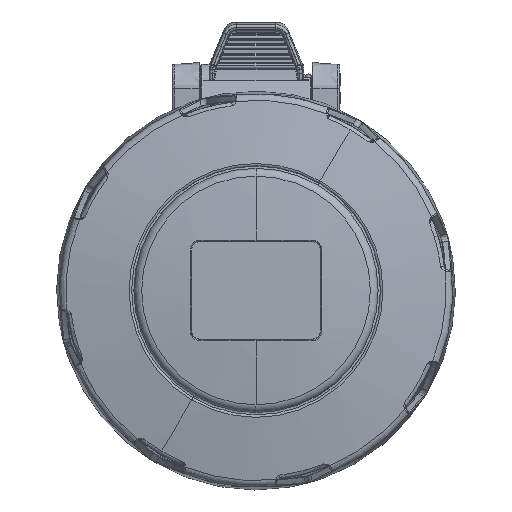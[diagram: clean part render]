
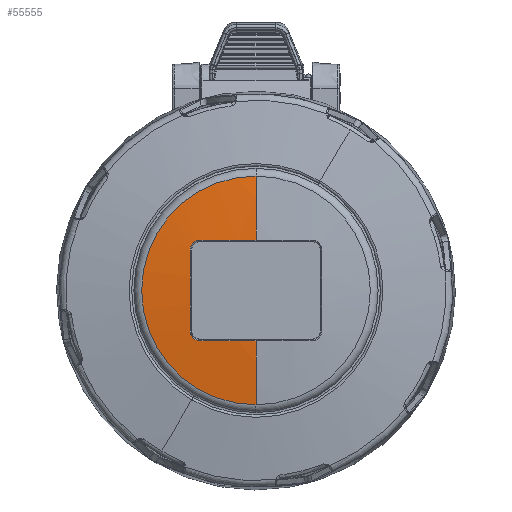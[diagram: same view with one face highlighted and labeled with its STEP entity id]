
A CAD part, top view. The second image highlights one B-rep face of the part: STEP entity #55555.
In plain terms, the highlighted spherical face has radius 199.5 mm.
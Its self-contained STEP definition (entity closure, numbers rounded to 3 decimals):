
#4870=CARTESIAN_POINT('',(0.,-11.211,-184.698));
#4871=DIRECTION('',(0.,-1.,0.));
#4872=DIRECTION('',(0.,0.,1.));
#4873=AXIS2_PLACEMENT_3D('',#4870,#4871,#4872);
#4878=CARTESIAN_POINT('',(0.,0.,13.165));
#4879=DIRECTION('',(0.,0.,1.));
#4880=DIRECTION('',(0.,1.,0.));
#4881=AXIS2_PLACEMENT_3D('',#4878,#4879,#4880);
#4886=CARTESIAN_POINT('',(0.,11.211,-184.698));
#4887=DIRECTION('',(0.,1.,0.));
#4888=DIRECTION('',(-0.063,0.,0.998));
#4889=AXIS2_PLACEMENT_3D('',#4886,#4887,#4888);
#4894=CARTESIAN_POINT('',(-14.715,9.009,14.055));
#4895=CARTESIAN_POINT('',(-14.715,9.175,14.047));
#4896=CARTESIAN_POINT('',(-14.678,9.5,14.035));
#4897=CARTESIAN_POINT('',(-14.514,9.971,14.024));
#4898=CARTESIAN_POINT('',(-14.25,10.392,14.021));
#4899=CARTESIAN_POINT('',(-13.899,10.744,14.027));
#4900=CARTESIAN_POINT('',(-13.478,11.009,14.042));
#4901=CARTESIAN_POINT('',(-13.006,11.174,14.064));
#4902=CARTESIAN_POINT('',(-12.68,11.211,14.083));
#4903=CARTESIAN_POINT('',(-12.513,11.211,14.094));
#4908=CARTESIAN_POINT('',(-14.715,0.,
-184.698));
#4909=DIRECTION('',(-1.,0.,0.));
#4910=DIRECTION('',(0.,-0.045,0.999));
#4911=AXIS2_PLACEMENT_3D('',#4908,#4909,#4910);
#4916=CARTESIAN_POINT('',(-12.513,-11.211,
14.094));
#4917=CARTESIAN_POINT('',(-12.679,-11.211,
14.083));
#4918=CARTESIAN_POINT('',(-13.005,-11.174,
14.064));
#4919=CARTESIAN_POINT('',(-13.476,-11.01,
14.042));
#4920=CARTESIAN_POINT('',(-13.896,-10.746,
14.028));
#4921=CARTESIAN_POINT('',(-14.248,-10.394,
14.021));
#4922=CARTESIAN_POINT('',(-14.513,-9.974,
14.024));
#4923=CARTESIAN_POINT('',(-14.678,-9.503,
14.035));
#4924=CARTESIAN_POINT('',(-14.715,-9.176,
14.047));
#4925=CARTESIAN_POINT('',(-14.715,-9.009,
14.055));
#5145=CARTESIAN_POINT('',(0.,0.,-184.698));
#5146=DIRECTION('',(1.,0.,0.));
#5147=DIRECTION('',(0.,0.128,0.992));
#5148=AXIS2_PLACEMENT_3D('',#5145,#5146,#5147);
#5161=CARTESIAN_POINT('',(0.,0.,-184.698));
#5162=DIRECTION('',(-1.,0.,0.));
#5163=DIRECTION('',(0.,-0.128,0.992));
#5164=AXIS2_PLACEMENT_3D('',#5161,#5162,#5163);
#43658=CARTESIAN_POINT('',(0.,25.509,13.165));
#43659=CARTESIAN_POINT('',(0.,-25.509,13.165));
#43660=VERTEX_POINT('',#43658);
#43661=VERTEX_POINT('',#43659);
#43666=CARTESIAN_POINT('',(0.,11.211,14.487));
#43668=VERTEX_POINT('',#43666);
#43679=CARTESIAN_POINT('',(0.,-11.211,14.487));
#43680=VERTEX_POINT('',#43679);
#43681=CARTESIAN_POINT('',(-12.513,-11.211,
14.094));
#43682=VERTEX_POINT('',#43681);
#43683=VERTEX_POINT('',#4925);
#43686=CARTESIAN_POINT('',(-14.715,9.009,
14.055));
#43687=VERTEX_POINT('',#43686);
#43690=VERTEX_POINT('',#4903);
#55533=CARTESIAN_POINT('',(0.,0.,-184.698));
#55534=DIRECTION('',(0.,0.,1.));
#55535=DIRECTION('',(0.,1.,0.));
#55536=AXIS2_PLACEMENT_3D('',#55533,#55534,#55535);
#55537=SPHERICAL_SURFACE('473',#55536,199.5);
#55539=ORIENTED_EDGE('2872',*,*,#55538,.F.);
#55541=ORIENTED_EDGE('2881',*,*,#55540,.F.);
#55542=ORIENTED_EDGE('2858',*,*,#55516,.F.);
#55544=ORIENTED_EDGE('2880',*,*,#55543,.T.);
#55546=ORIENTED_EDGE('2879',*,*,#55545,.F.);
#55548=ORIENTED_EDGE('2877',*,*,#55547,.F.);
#55550=ORIENTED_EDGE('2875',*,*,#55549,.F.);
#55552=ORIENTED_EDGE('2873',*,*,#55551,.F.);
#55553=EDGE_LOOP('473',(#55539,#55541,#55542,#55544,#55546,#55548,#55550,
#55552));
#55554=FACE_OUTER_BOUND('473',#55553,.F.);
#4874=CIRCLE('2872',#4873,199.185);
#4882=CIRCLE('2858',#4881,25.509);
#4890=CIRCLE('2879',#4889,199.185);
#4904=B_SPLINE_CURVE_WITH_KNOTS('2877',3,(#4894,#4895,#4896,#4897,#4898,#4899,
#4900,#4901,#4902,#4903),.UNSPECIFIED.,.F.,.F.,(4,1,1,1,1,1,1,4),(0.,
0.143,0.286,0.429,0.571,
0.714,0.857,1.),.UNSPECIFIED.);
#4912=CIRCLE('2875',#4911,198.957);
#4926=B_SPLINE_CURVE_WITH_KNOTS('2873',3,(#4916,#4917,#4918,#4919,#4920,#4921,
#4922,#4923,#4924,#4925),.UNSPECIFIED.,.F.,.F.,(4,1,1,1,1,1,1,4),(0.,
0.143,0.286,0.429,0.571,
0.714,0.857,1.),.UNSPECIFIED.);
#5149=CIRCLE('2880',#5148,199.5);
#5165=CIRCLE('2881',#5164,199.5);
#55516=EDGE_CURVE('2858',#43660,#43661,#4882,.T.);
#55538=EDGE_CURVE('2872',#43680,#43682,#4874,.T.);
#55540=EDGE_CURVE('2881',#43661,#43680,#5165,.T.);
#55543=EDGE_CURVE('2880',#43660,#43668,#5149,.T.);
#55545=EDGE_CURVE('2879',#43690,#43668,#4890,.T.);
#55547=EDGE_CURVE('2877',#43687,#43690,#4904,.T.);
#55549=EDGE_CURVE('2875',#43683,#43687,#4912,.T.);
#55551=EDGE_CURVE('2873',#43682,#43683,#4926,.T.);
#55555=ADVANCED_FACE('473',(#55554),#55537,.T.);
